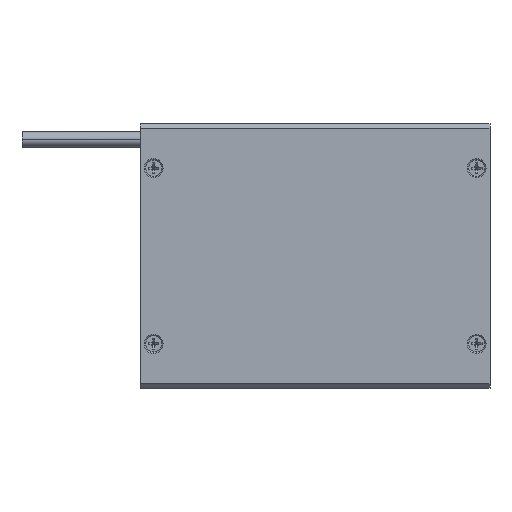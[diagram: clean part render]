
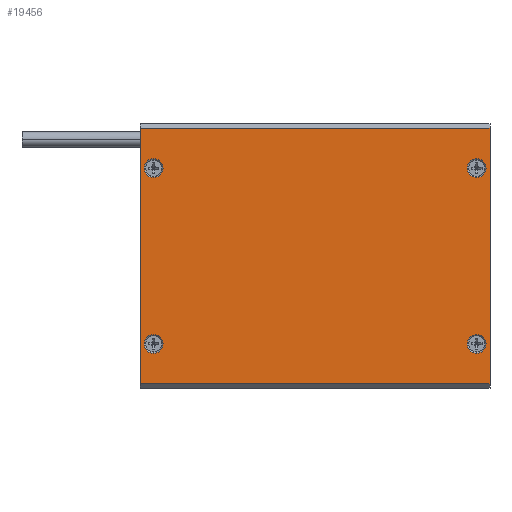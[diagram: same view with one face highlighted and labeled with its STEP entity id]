
A CAD part, front view. The second image highlights one B-rep face of the part: STEP entity #19456.
In plain terms, the highlighted planar face has unit normal (0, -1, 0).
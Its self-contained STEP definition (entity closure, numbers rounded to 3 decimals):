
#1325=DIRECTION('',(0.,0.,-1.));
#1326=VECTOR('',#1325,57.7);
#1327=CARTESIAN_POINT('',(-89.574,0.1,
-1.2));
#1328=LINE('',#1327,#1326);
#3051=DIRECTION('',(0.,0.,1.));
#3052=VECTOR('',#3051,57.7);
#3053=CARTESIAN_POINT('',(-10.574,0.1,-58.9));
#3054=LINE('',#3053,#3052);
#4847=CARTESIAN_POINT('',(-13.574,0.1,
-10.2));
#4848=DIRECTION('',(0.,1.,0.));
#4849=DIRECTION('',(0.,0.,1.));
#4850=AXIS2_PLACEMENT_3D('',#4847,#4848,#4849);
#4852=CARTESIAN_POINT('',(-13.574,0.1,
-10.2));
#4853=DIRECTION('',(0.,1.,0.));
#4854=DIRECTION('',(0.,0.,-1.));
#4855=AXIS2_PLACEMENT_3D('',#4852,#4853,#4854);
#4857=CARTESIAN_POINT('',(-13.574,0.1,-49.9));
#4858=DIRECTION('',(0.,1.,0.));
#4859=DIRECTION('',(0.,0.,-1.));
#4860=AXIS2_PLACEMENT_3D('',#4857,#4858,#4859);
#4862=CARTESIAN_POINT('',(-13.574,0.1,-49.9));
#4863=DIRECTION('',(0.,1.,0.));
#4864=DIRECTION('',(0.,0.,1.));
#4865=AXIS2_PLACEMENT_3D('',#4862,#4863,#4864);
#4867=CARTESIAN_POINT('',(-86.574,0.1,
-10.2));
#4868=DIRECTION('',(0.,1.,0.));
#4869=DIRECTION('',(0.,0.,1.));
#4870=AXIS2_PLACEMENT_3D('',#4867,#4868,#4869);
#4872=CARTESIAN_POINT('',(-86.574,0.1,
-10.2));
#4873=DIRECTION('',(0.,1.,0.));
#4874=DIRECTION('',(0.,0.,-1.));
#4875=AXIS2_PLACEMENT_3D('',#4872,#4873,#4874);
#4877=CARTESIAN_POINT('',(-86.574,0.1,-49.9));
#4878=DIRECTION('',(0.,1.,0.));
#4879=DIRECTION('',(0.,0.,-1.));
#4880=AXIS2_PLACEMENT_3D('',#4877,#4878,#4879);
#4882=CARTESIAN_POINT('',(-86.574,0.1,-49.9));
#4883=DIRECTION('',(0.,1.,0.));
#4884=DIRECTION('',(0.,0.,1.));
#4885=AXIS2_PLACEMENT_3D('',#4882,#4883,#4884);
#4887=DIRECTION('',(-1.,0.,0.));
#4888=VECTOR('',#4887,79.);
#4889=CARTESIAN_POINT('',(-10.574,0.1,
-1.2));
#4890=LINE('',#4889,#4888);
#4891=DIRECTION('',(-1.,0.,0.));
#4892=VECTOR('',#4891,79.);
#4893=CARTESIAN_POINT('',(-10.574,0.1,-58.9));
#4894=LINE('',#4893,#4892);
#10005=CARTESIAN_POINT('',(-13.574,0.1,
-47.772));
#10006=CARTESIAN_POINT('',(-13.574,0.1,
-52.028));
#10007=VERTEX_POINT('',#10005);
#10008=VERTEX_POINT('',#10006);
#10009=CARTESIAN_POINT('',(-13.574,0.1,
-8.073));
#10010=CARTESIAN_POINT('',(-13.574,0.1,
-12.328));
#10011=VERTEX_POINT('',#10009);
#10012=VERTEX_POINT('',#10010);
#10013=CARTESIAN_POINT('',(-10.574,0.1,-58.9));
#10014=CARTESIAN_POINT('',(-89.574,0.1,-58.9));
#10015=VERTEX_POINT('',#10013);
#10016=VERTEX_POINT('',#10014);
#10065=CARTESIAN_POINT('',(-86.574,0.1,
-47.772));
#10066=CARTESIAN_POINT('',(-86.574,0.1,
-52.028));
#10067=VERTEX_POINT('',#10065);
#10068=VERTEX_POINT('',#10066);
#10069=CARTESIAN_POINT('',(-86.574,0.1,
-8.073));
#10070=CARTESIAN_POINT('',(-86.574,0.1,
-12.328));
#10071=VERTEX_POINT('',#10069);
#10072=VERTEX_POINT('',#10070);
#10648=CARTESIAN_POINT('',(-10.574,0.1,
-1.2));
#10650=VERTEX_POINT('',#10648);
#10791=CARTESIAN_POINT('',(-89.574,0.1,
-1.2));
#10793=VERTEX_POINT('',#10791);
#19420=CARTESIAN_POINT('',(-91.574,0.1,-56.7));
#19421=DIRECTION('',(0.,-1.,0.));
#19422=DIRECTION('',(1.,0.,0.));
#19423=AXIS2_PLACEMENT_3D('',#19420,#19421,#19422);
#19424=PLANE('',#19423);
#19425=ORIENTED_EDGE('',*,*,#14484,.F.);
#19427=ORIENTED_EDGE('',*,*,#19426,.F.);
#19428=ORIENTED_EDGE('',*,*,#16631,.F.);
#19429=ORIENTED_EDGE('',*,*,#19412,.T.);
#19430=EDGE_LOOP('',(#19425,#19427,#19428,#19429));
#19431=FACE_OUTER_BOUND('',#19430,.F.);
#19433=ORIENTED_EDGE('',*,*,#19432,.F.);
#19435=ORIENTED_EDGE('',*,*,#19434,.F.);
#19436=EDGE_LOOP('',(#19433,#19435));
#19437=FACE_BOUND('',#19436,.F.);
#19439=ORIENTED_EDGE('',*,*,#19438,.F.);
#19441=ORIENTED_EDGE('',*,*,#19440,.F.);
#19442=EDGE_LOOP('',(#19439,#19441));
#19443=FACE_BOUND('',#19442,.F.);
#19445=ORIENTED_EDGE('',*,*,#19444,.F.);
#19447=ORIENTED_EDGE('',*,*,#19446,.F.);
#19448=EDGE_LOOP('',(#19445,#19447));
#19449=FACE_BOUND('',#19448,.F.);
#19451=ORIENTED_EDGE('',*,*,#19450,.F.);
#19453=ORIENTED_EDGE('',*,*,#19452,.F.);
#19454=EDGE_LOOP('',(#19451,#19453));
#19455=FACE_BOUND('',#19454,.F.);
#19456=ADVANCED_FACE('',(#19431,#19437,#19443,#19449,#19455),#19424,.T.);
#4851=CIRCLE('',#4850,2.128);
#4856=CIRCLE('',#4855,2.128);
#4861=CIRCLE('',#4860,2.128);
#4866=CIRCLE('',#4865,2.128);
#4871=CIRCLE('',#4870,2.128);
#4876=CIRCLE('',#4875,2.128);
#4881=CIRCLE('',#4880,2.128);
#4886=CIRCLE('',#4885,2.128);
#14484=EDGE_CURVE('',#10793,#10016,#1328,.T.);
#16631=EDGE_CURVE('',#10015,#10650,#3054,.T.);
#19412=EDGE_CURVE('',#10015,#10016,#4894,.T.);
#19426=EDGE_CURVE('',#10650,#10793,#4890,.T.);
#19432=EDGE_CURVE('',#10008,#10007,#4861,.T.);
#19434=EDGE_CURVE('',#10007,#10008,#4866,.T.);
#19438=EDGE_CURVE('',#10071,#10072,#4871,.T.);
#19440=EDGE_CURVE('',#10072,#10071,#4876,.T.);
#19444=EDGE_CURVE('',#10068,#10067,#4881,.T.);
#19446=EDGE_CURVE('',#10067,#10068,#4886,.T.);
#19450=EDGE_CURVE('',#10011,#10012,#4851,.T.);
#19452=EDGE_CURVE('',#10012,#10011,#4856,.T.);
